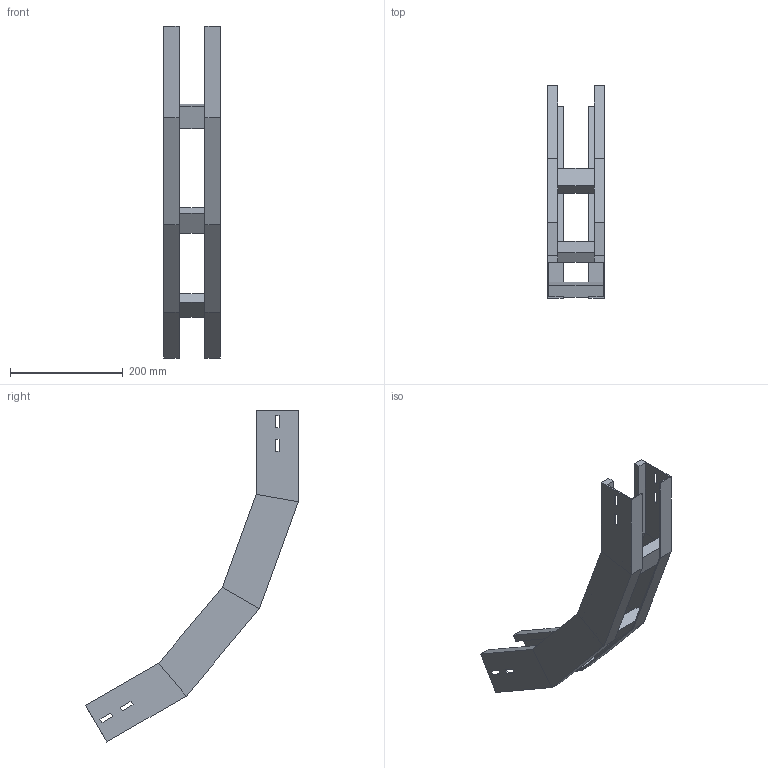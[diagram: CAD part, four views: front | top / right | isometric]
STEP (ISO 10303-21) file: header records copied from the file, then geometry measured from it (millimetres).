
FILE_DESCRIPTION (( 'STEP AP214' ), '1' );
FILE_NAME ('B2X40B5C100XX.step', '2025-03-20T10:18:16', ( '' ), ( '' ), 'SwSTEP 2.0', 'SolidWorks 2023', '' );
FILE_SCHEMA (( 'AUTOMOTIVE_DESIGN' ));
Length unit declared in the file: millimetre
Products named in the file (3): LONGH.SALITA_60°_H75_R500; TRAVERSINO_100; B2X40B5C100XX
Assembly tree (5 placements, depth 2):
  B2X40B5C100XX
    LONGH.SALITA_60°_H75_R500  x2
    TRAVERSINO_100  x3
Bounding box: 100 x 377.79 x 589.4 mm (x, y, z)
Volume: 763410 mm3; surface area: 367491.6 mm2
Topology: 5 solids, 5 shells, 118 faces, 276 edges, 168 vertices
Faces by surface type: plane 118
Entity records: 1672 total; most frequent: CARTESIAN_POINT 276, ORIENTED_EDGE 264, DIRECTION 260, VECTOR 132, EDGE_CURVE 132, LINE 132, VERTEX_POINT 80, EDGE_LOOP 64
